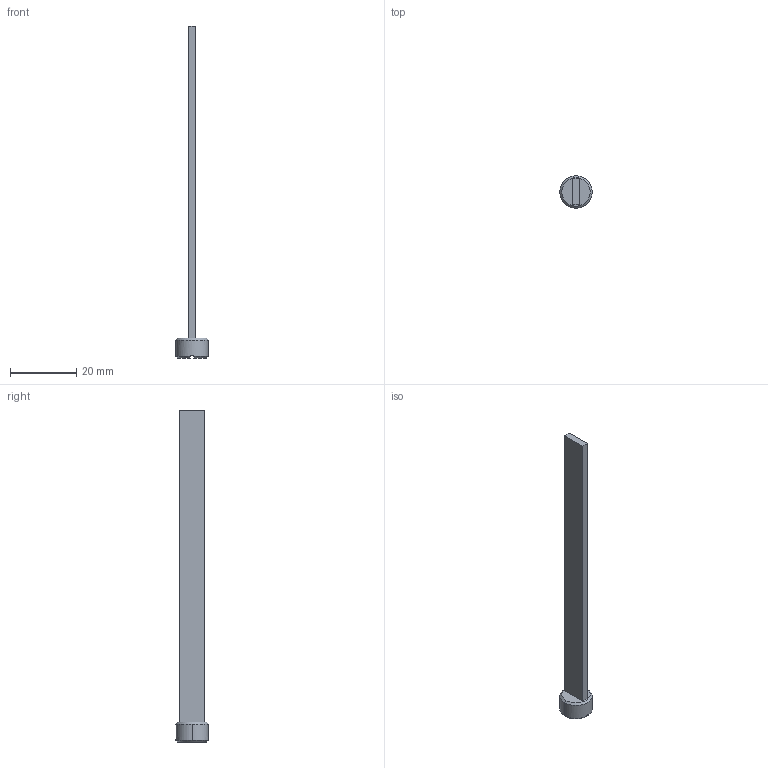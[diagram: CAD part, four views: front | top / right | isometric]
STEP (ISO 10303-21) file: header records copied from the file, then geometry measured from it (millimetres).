
FILE_DESCRIPTION (( 'STEP AP214' ), '1' );
FILE_NAME ('BruyRubio_BR965-1_8-100.STEP', '2019-12-17T14:41:01', ( '' ), ( '' ), 'SwSTEP 2.0', 'SolidWorks 2017', '' );
FILE_SCHEMA (( 'AUTOMOTIVE_DESIGN' ));
Length unit declared in the file: millimetre
Products named in the file (1): BruyRubio_BR965-1_8-100
Bounding box: 9.73 x 9.73 x 100 mm (x, y, z)
Volume: 1817.1 mm3; surface area: 2541.7 mm2
Topology: 3 solids, 3 shells, 39 faces, 99 edges, 64 vertices
Faces by surface type: plane 28, cylinder 6, cone 5
Entity records: 1658 total; most frequent: CARTESIAN_POINT 215, DIRECTION 199, ORIENTED_EDGE 198, EDGE_CURVE 99, LINE 71, VECTOR 71, AXIS2_PLACEMENT_3D 64, VERTEX_POINT 64
